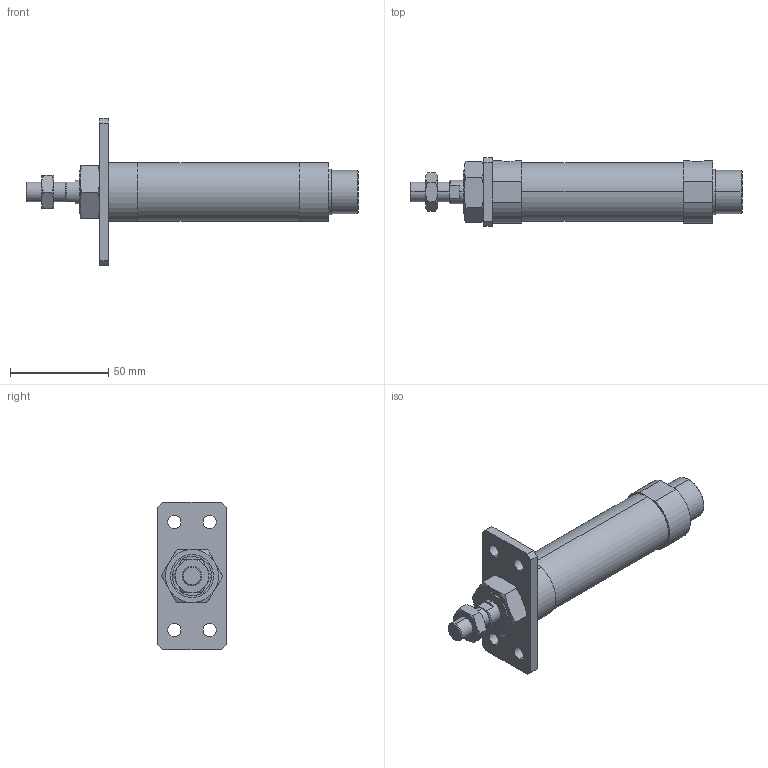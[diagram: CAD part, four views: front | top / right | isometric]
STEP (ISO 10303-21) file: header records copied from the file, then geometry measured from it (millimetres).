
FILE_DESCRIPTION (( 'STEP AP203' ), '1' );
FILE_NAME ('J#2-25-50-A.STEP', '2016-03-08T07:10:42', ( '' ), ( '' ), 'SwSTEP 2.0', 'SolidWorks 2014', '' );
FILE_SCHEMA (( 'CONFIG_CONTROL_DESIGN' ));
Length unit declared in the file: millimetre
Products named in the file (5): J#2-25-50; J#2-25-50-A; J#2-25-A
Assembly tree (4 placements, depth 2):
  J#2-25-50-A
    J#2-25-50
    (unnamed)
    (unnamed)
    J#2-25-A
Bounding box: 169 x 35 x 75 mm (x, y, z)
Volume: 106202.4 mm3; surface area: 25431.6 mm2
Topology: 4 solids, 4 shells, 117 faces, 268 edges, 162 vertices
Faces by surface type: plane 47, cylinder 36, torus 24, cone 10
Entity records: 4123 total; most frequent: CARTESIAN_POINT 990, DIRECTION 558, ORIENTED_EDGE 528, EDGE_CURVE 264, AXIS2_PLACEMENT_3D 226, VERTEX_POINT 162, EDGE_LOOP 138, FACE_OUTER_BOUND 117
